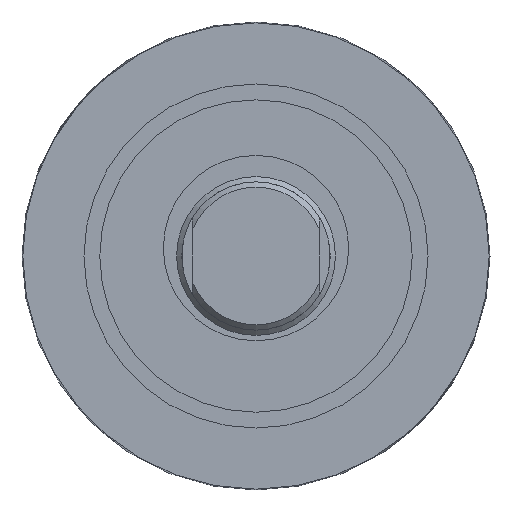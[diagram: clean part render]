
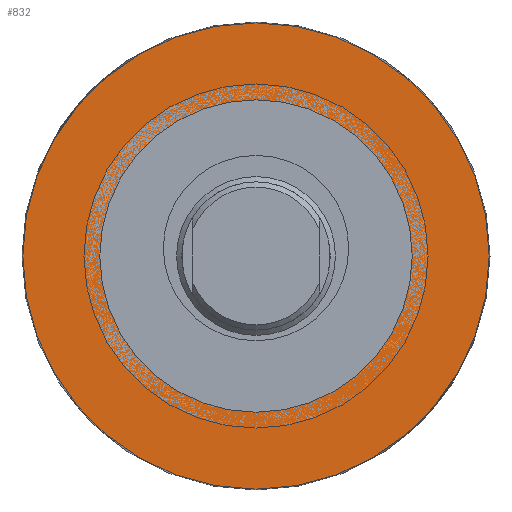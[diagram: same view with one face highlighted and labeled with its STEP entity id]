
A CAD part, left-side view. The second image highlights one B-rep face of the part: STEP entity #832.
In plain terms, the highlighted planar face has unit normal (-1, 0, 0).
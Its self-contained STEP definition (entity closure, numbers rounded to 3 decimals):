
#150=FACE_OUTER_BOUND('',#206,.T.);
#206=EDGE_LOOP('',(#608));
#268=CIRCLE('',#940,44.039);
#349=VERTEX_POINT('',#1480);
#445=EDGE_CURVE('',#349,#349,#268,.T.);
#608=ORIENTED_EDGE('',*,*,#445,.T.);
#732=PLANE('',#939);
#832=ADVANCED_FACE('',(#150),#732,.T.);
#939=AXIS2_PLACEMENT_3D('',#1479,#1133,#1134);
#940=AXIS2_PLACEMENT_3D('',#1481,#1135,#1136);
#1133=DIRECTION('center_axis',(-1.,0.,0.));
#1134=DIRECTION('ref_axis',(0.,0.,-1.));
#1135=DIRECTION('center_axis',(-1.,0.,0.));
#1136=DIRECTION('ref_axis',(0.,0.,1.));
#1479=CARTESIAN_POINT('Origin',(76.7,-38.27,0.));
#1480=CARTESIAN_POINT('',(76.7,0.,-44.039));
#1481=CARTESIAN_POINT('Origin',(76.7,0.,0.));
